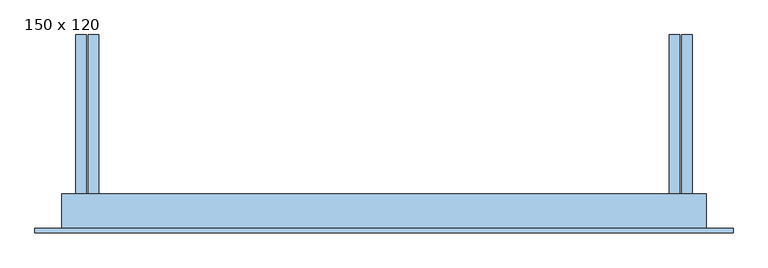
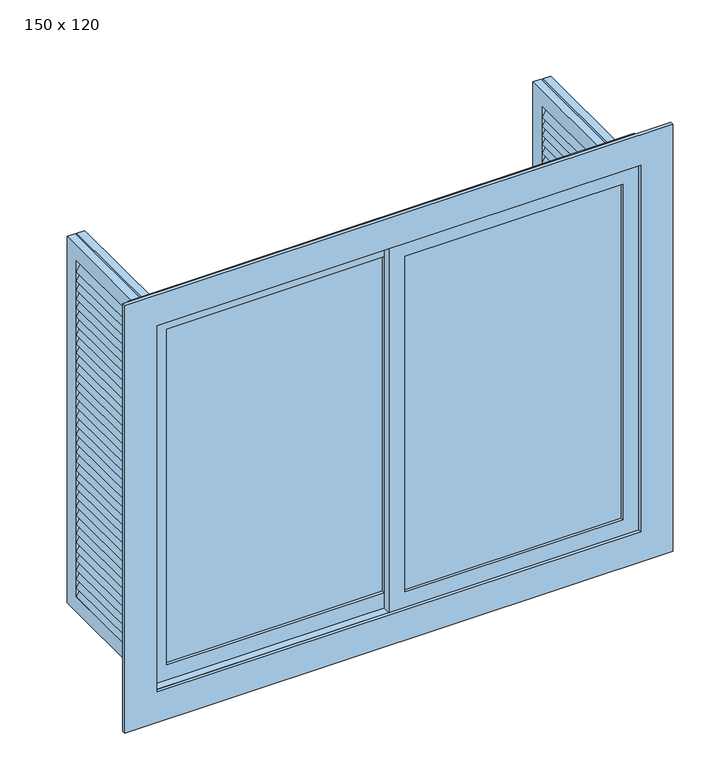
"""IFC4 building model written with IfcOpenShell, lengths in millimetres: window geometry, JANELA COM ESQUADRIA DE CORRER - 2 FOLHAS + VENEZIANA SANFONADA - 4 FOLHAS : 150 x 120."""

from ifc_helpers import new_model, si_unit, frame, origin, place, context, project, spatial, polyline, outline, extrude, source, transform, mapped, element, save


def window_150_x_120_a11b06af(model_context):
    return source(origin(), model_context, "Body", "SweptSolid", [
        extrude(outline(polyline([(2085.4166667, 817.0241297), (2120.4166667, 837.0241297), (2120.4166667, 832.0241297), (2085.4166667, 812.0241297), (2085.4166667, 817.0241297)])), frame((0.0, 72.1733038, 0.0), z_axis=(0.0, 1.0, 0.0), x_axis=(0.0, 0.0, 1.0)), (0.0, 0.0, 1.0), 287.5),
        extrude(outline(polyline([(2055.8333333, 817.0241297), (2090.8333333, 837.0241297), (2090.8333333, 832.0241297), (2055.8333333, 812.0241297), (2055.8333333, 817.0241297)])), frame((0.0, 72.1733038, 0.0), z_axis=(0.0, 1.0, 0.0), x_axis=(0.0, 0.0, 1.0)), (0.0, 0.0, 1.0), 287.5),
        extrude(outline(polyline([(2026.25, 817.0241297), (2061.25, 837.0241297), (2061.25, 832.0241297), (2026.25, 812.0241297), (2026.25, 817.0241297)])), frame((0.0, 72.1733038, 0.0), z_axis=(0.0, 1.0, 0.0), x_axis=(0.0, 0.0, 1.0)), (0.0, 0.0, 1.0), 287.5),
        extrude(outline(polyline([(1996.6666667, 817.0241297), (2031.6666667, 837.0241297), (2031.6666667, 832.0241297), (1996.6666667, 812.0241297), (1996.6666667, 817.0241297)])), frame((0.0, 72.1733038, 0.0), z_axis=(0.0, 1.0, 0.0), x_axis=(0.0, 0.0, 1.0)), (0.0, 0.0, 1.0), 287.5),
        extrude(outline(polyline([(1967.0833333, 817.0241297), (2002.0833333, 837.0241297), (2002.0833333, 832.0241297), (1967.0833333, 812.0241297), (1967.0833333, 817.0241297)])), frame((0.0, 72.1733038, 0.0), z_axis=(0.0, 1.0, 0.0), x_axis=(0.0, 0.0, 1.0)), (0.0, 0.0, 1.0), 287.5),
        extrude(outline(polyline([(1937.5, 817.0241297), (1972.5, 837.0241297), (1972.5, 832.0241297), (1937.5, 812.0241297), (1937.5, 817.0241297)])), frame((0.0, 72.1733038, 0.0), z_axis=(0.0, 1.0, 0.0), x_axis=(0.0, 0.0, 1.0)), (0.0, 0.0, 1.0), 287.5),
        extrude(outline(polyline([(1907.9166667, 817.0241297), (1942.9166667, 837.0241297), (1942.9166667, 832.0241297), (1907.9166667, 812.0241297), (1907.9166667, 817.0241297)])), frame((0.0, 72.1733038, 0.0), z_axis=(0.0, 1.0, 0.0), x_axis=(0.0, 0.0, 1.0)), (0.0, 0.0, 1.0), 287.5),
        extrude(outline(polyline([(1878.3333333, 817.0241297), (1913.3333333, 837.0241297), (1913.3333333, 832.0241297), (1878.3333333, 812.0241297), (1878.3333333, 817.0241297)])), frame((0.0, 72.1733038, 0.0), z_axis=(0.0, 1.0, 0.0), x_axis=(0.0, 0.0, 1.0)), (0.0, 0.0, 1.0), 287.5),
        extrude(outline(polyline([(1848.75, 817.0241297), (1883.75, 837.0241297), (1883.75, 832.0241297), (1848.75, 812.0241297), (1848.75, 817.0241297)])), frame((0.0, 72.1733038, 0.0), z_axis=(0.0, 1.0, 0.0), x_axis=(0.0, 0.0, 1.0)), (0.0, 0.0, 1.0), 287.5),
        extrude(outline(polyline([(1819.1666667, 817.0241297), (1854.1666667, 837.0241297), (1854.1666667, 832.0241297), (1819.1666667, 812.0241297), (1819.1666667, 817.0241297)])), frame((0.0, 72.1733038, 0.0), z_axis=(0.0, 1.0, 0.0), x_axis=(0.0, 0.0, 1.0)), (0.0, 0.0, 1.0), 287.5),
        extrude(outline(polyline([(1789.5833333, 817.0241297), (1824.5833333, 837.0241297), (1824.5833333, 832.0241297), (1789.5833333, 812.0241297), (1789.5833333, 817.0241297)])), frame((0.0, 72.1733038, 0.0), z_axis=(0.0, 1.0, 0.0), x_axis=(0.0, 0.0, 1.0)), (0.0, 0.0, 1.0), 287.5),
        extrude(outline(polyline([(1760.0, 817.0241297), (1795.0, 837.0241297), (1795.0, 832.0241297), (1760.0, 812.0241297), (1760.0, 817.0241297)])), frame((0.0, 72.1733038, 0.0), z_axis=(0.0, 1.0, 0.0), x_axis=(0.0, 0.0, 1.0)), (0.0, 0.0, 1.0), 287.5),
        extrude(outline(polyline([(1730.4166667, 817.0241297), (1765.4166667, 837.0241297), (1765.4166667, 832.0241297), (1730.4166667, 812.0241297), (1730.4166667, 817.0241297)])), frame((0.0, 72.1733038, 0.0), z_axis=(0.0, 1.0, 0.0), x_axis=(0.0, 0.0, 1.0)), (0.0, 0.0, 1.0), 287.5),
        extrude(outline(polyline([(1700.8333333, 817.0241297), (1735.8333333, 837.0241297), (1735.8333333, 832.0241297), (1700.8333333, 812.0241297), (1700.8333333, 817.0241297)])), frame((0.0, 72.1733038, 0.0), z_axis=(0.0, 1.0, 0.0), x_axis=(0.0, 0.0, 1.0)), (0.0, 0.0, 1.0), 287.5),
        extrude(outline(polyline([(2085.4166667, 862.0241297), (2085.4166667, 867.0241297), (2120.4166667, 847.0241297), (2120.4166667, 842.0241297), (2085.4166667, 862.0241297)])), frame((0.0, 72.1733038, 0.0), z_axis=(0.0, 1.0, 0.0), x_axis=(0.0, 0.0, 1.0)), (0.0, 0.0, 1.0), 287.5),
        extrude(outline(polyline([(2055.8333333, 862.0241297), (2055.8333333, 867.0241297), (2090.8333333, 847.0241297), (2090.8333333, 842.0241297), (2055.8333333, 862.0241297)])), frame((0.0, 72.1733038, 0.0), z_axis=(0.0, 1.0, 0.0), x_axis=(0.0, 0.0, 1.0)), (0.0, 0.0, 1.0), 287.5),
        extrude(outline(polyline([(2026.25, 862.0241297), (2026.25, 867.0241297), (2061.25, 847.0241297), (2061.25, 842.0241297), (2026.25, 862.0241297)])), frame((0.0, 72.1733038, 0.0), z_axis=(0.0, 1.0, 0.0), x_axis=(0.0, 0.0, 1.0)), (0.0, 0.0, 1.0), 287.5),
        extrude(outline(polyline([(1996.6666667, 862.0241297), (1996.6666667, 867.0241297), (2031.6666667, 847.0241297), (2031.6666667, 842.0241297), (1996.6666667, 862.0241297)])), frame((0.0, 72.1733038, 0.0), z_axis=(0.0, 1.0, 0.0), x_axis=(0.0, 0.0, 1.0)), (0.0, 0.0, 1.0), 287.5),
        extrude(outline(polyline([(1967.0833333, 862.0241297), (1967.0833333, 867.0241297), (2002.0833333, 847.0241297), (2002.0833333, 842.0241297), (1967.0833333, 862.0241297)])), frame((0.0, 72.1733038, 0.0), z_axis=(0.0, 1.0, 0.0), x_axis=(0.0, 0.0, 1.0)), (0.0, 0.0, 1.0), 287.5),
        extrude(outline(polyline([(1937.5, 862.0241297), (1937.5, 867.0241297), (1972.5, 847.0241297), (1972.5, 842.0241297), (1937.5, 862.0241297)])), frame((0.0, 72.1733038, 0.0), z_axis=(0.0, 1.0, 0.0), x_axis=(0.0, 0.0, 1.0)), (0.0, 0.0, 1.0), 287.5),
        extrude(outline(polyline([(1907.9166667, 862.0241297), (1907.9166667, 867.0241297), (1942.9166667, 847.0241297), (1942.9166667, 842.0241297), (1907.9166667, 862.0241297)])), frame((0.0, 72.1733038, 0.0), z_axis=(0.0, 1.0, 0.0), x_axis=(0.0, 0.0, 1.0)), (0.0, 0.0, 1.0), 287.5),
        extrude(outline(polyline([(1878.3333333, 862.0241297), (1878.3333333, 867.0241297), (1913.3333333, 847.0241297), (1913.3333333, 842.0241297), (1878.3333333, 862.0241297)])), frame((0.0, 72.1733038, 0.0), z_axis=(0.0, 1.0, 0.0), x_axis=(0.0, 0.0, 1.0)), (0.0, 0.0, 1.0), 287.5),
        extrude(outline(polyline([(1848.75, 862.0241297), (1848.75, 867.0241297), (1883.75, 847.0241297), (1883.75, 842.0241297), (1848.75, 862.0241297)])), frame((0.0, 72.1733038, 0.0), z_axis=(0.0, 1.0, 0.0), x_axis=(0.0, 0.0, 1.0)), (0.0, 0.0, 1.0), 287.5),
        extrude(outline(polyline([(1819.1666667, 862.0241297), (1819.1666667, 867.0241297), (1854.1666667, 847.0241297), (1854.1666667, 842.0241297), (1819.1666667, 862.0241297)])), frame((0.0, 72.1733038, 0.0), z_axis=(0.0, 1.0, 0.0), x_axis=(0.0, 0.0, 1.0)), (0.0, 0.0, 1.0), 287.5),
        extrude(outline(polyline([(1789.5833333, 862.0241297), (1789.5833333, 867.0241297), (1824.5833333, 847.0241297), (1824.5833333, 842.0241297), (1789.5833333, 862.0241297)])), frame((0.0, 72.1733038, 0.0), z_axis=(0.0, 1.0, 0.0), x_axis=(0.0, 0.0, 1.0)), (0.0, 0.0, 1.0), 287.5),
        extrude(outline(polyline([(1760.0, 862.0241297), (1760.0, 867.0241297), (1795.0, 847.0241297), (1795.0, 842.0241297), (1760.0, 862.0241297)])), frame((0.0, 72.1733038, 0.0), z_axis=(0.0, 1.0, 0.0), x_axis=(0.0, 0.0, 1.0)), (0.0, 0.0, 1.0), 287.5),
        extrude(outline(polyline([(1730.4166667, 862.0241297), (1730.4166667, 867.0241297), (1765.4166667, 847.0241297), (1765.4166667, 842.0241297), (1730.4166667, 862.0241297)])), frame((0.0, 72.1733038, 0.0), z_axis=(0.0, 1.0, 0.0), x_axis=(0.0, 0.0, 1.0)), (0.0, 0.0, 1.0), 287.5),
        extrude(outline(polyline([(1700.8333333, 862.0241297), (1700.8333333, 867.0241297), (1735.8333333, 847.0241297), (1735.8333333, 842.0241297), (1700.8333333, 862.0241297)])), frame((0.0, 72.1733038, 0.0), z_axis=(0.0, 1.0, 0.0), x_axis=(0.0, 0.0, 1.0)), (0.0, 0.0, 1.0), 287.5),
        extrude(outline(polyline([(1671.25, 817.0241297), (1706.25, 837.0241297), (1706.25, 832.0241297), (1671.25, 812.0241297), (1671.25, 817.0241297)])), frame((0.0, 72.1733038, 0.0), z_axis=(0.0, 1.0, 0.0), x_axis=(0.0, 0.0, 1.0)), (0.0, 0.0, 1.0), 287.5),
        extrude(outline(polyline([(1641.6666667, 817.0241297), (1676.6666667, 837.0241297), (1676.6666667, 832.0241297), (1641.6666667, 812.0241297), (1641.6666667, 817.0241297)])), frame((0.0, 72.1733038, 0.0), z_axis=(0.0, 1.0, 0.0), x_axis=(0.0, 0.0, 1.0)), (0.0, 0.0, 1.0), 287.5),
        extrude(outline(polyline([(1612.0833333, 817.0241297), (1647.0833333, 837.0241297), (1647.0833333, 832.0241297), (1612.0833333, 812.0241297), (1612.0833333, 817.0241297)])), frame((0.0, 72.1733038, 0.0), z_axis=(0.0, 1.0, 0.0), x_axis=(0.0, 0.0, 1.0)), (0.0, 0.0, 1.0), 287.5),
        extrude(outline(polyline([(1582.5, 817.0241297), (1617.5, 837.0241297), (1617.5, 832.0241297), (1582.5, 812.0241297), (1582.5, 817.0241297)])), frame((0.0, 72.1733038, 0.0), z_axis=(0.0, 1.0, 0.0), x_axis=(0.0, 0.0, 1.0)), (0.0, 0.0, 1.0), 287.5),
        extrude(outline(polyline([(1552.9166667, 817.0241297), (1587.9166667, 837.0241297), (1587.9166667, 832.0241297), (1552.9166667, 812.0241297), (1552.9166667, 817.0241297)])), frame((0.0, 72.1733038, 0.0), z_axis=(0.0, 1.0, 0.0), x_axis=(0.0, 0.0, 1.0)), (0.0, 0.0, 1.0), 287.5),
        extrude(outline(polyline([(1523.3333333, 817.0241297), (1558.3333333, 837.0241297), (1558.3333333, 832.0241297), (1523.3333333, 812.0241297), (1523.3333333, 817.0241297)])), frame((0.0, 72.1733038, 0.0), z_axis=(0.0, 1.0, 0.0), x_axis=(0.0, 0.0, 1.0)), (0.0, 0.0, 1.0), 287.5),
        extrude(outline(polyline([(1493.75, 817.0241297), (1528.75, 837.0241297), (1528.75, 832.0241297), (1493.75, 812.0241297), (1493.75, 817.0241297)])), frame((0.0, 72.1733038, 0.0), z_axis=(0.0, 1.0, 0.0), x_axis=(0.0, 0.0, 1.0)), (0.0, 0.0, 1.0), 287.5),
        extrude(outline(polyline([(1464.1666667, 817.0241297), (1499.1666667, 837.0241297), (1499.1666667, 832.0241297), (1464.1666667, 812.0241297), (1464.1666667, 817.0241297)])), frame((0.0, 72.1733038, 0.0), z_axis=(0.0, 1.0, 0.0), x_axis=(0.0, 0.0, 1.0)), (0.0, 0.0, 1.0), 287.5),
        extrude(outline(polyline([(1434.5833333, 817.0241297), (1469.5833333, 837.0241297), (1469.5833333, 832.0241297), (1434.5833333, 812.0241297), (1434.5833333, 817.0241297)])), frame((0.0, 72.1733038, 0.0), z_axis=(0.0, 1.0, 0.0), x_axis=(0.0, 0.0, 1.0)), (0.0, 0.0, 1.0), 287.5),
        extrude(outline(polyline([(1405.0, 817.0241297), (1440.0, 837.0241297), (1440.0, 832.0241297), (1405.0, 812.0241297), (1405.0, 817.0241297)])), frame((0.0, 72.1733038, 0.0), z_axis=(0.0, 1.0, 0.0), x_axis=(0.0, 0.0, 1.0)), (0.0, 0.0, 1.0), 287.5),
        extrude(outline(polyline([(1375.4166667, 817.0241297), (1410.4166667, 837.0241297), (1410.4166667, 832.0241297), (1375.4166667, 812.0241297), (1375.4166667, 817.0241297)])), frame((0.0, 72.1733038, 0.0), z_axis=(0.0, 1.0, 0.0), x_axis=(0.0, 0.0, 1.0)), (0.0, 0.0, 1.0), 287.5),
        extrude(outline(polyline([(1345.8333333, 817.0241297), (1380.8333333, 837.0241297), (1380.8333333, 832.0241297), (1345.8333333, 812.0241297), (1345.8333333, 817.0241297)])), frame((0.0, 72.1733038, 0.0), z_axis=(0.0, 1.0, 0.0), x_axis=(0.0, 0.0, 1.0)), (0.0, 0.0, 1.0), 287.5),
        extrude(outline(polyline([(1316.25, 817.0241297), (1351.25, 837.0241297), (1351.25, 832.0241297), (1316.25, 812.0241297), (1316.25, 817.0241297)])), frame((0.0, 72.1733038, 0.0), z_axis=(0.0, 1.0, 0.0), x_axis=(0.0, 0.0, 1.0)), (0.0, 0.0, 1.0), 287.5),
        extrude(outline(polyline([(1286.6666667, 817.0241297), (1321.6666667, 837.0241297), (1321.6666667, 832.0241297), (1286.6666667, 812.0241297), (1286.6666667, 817.0241297)])), frame((0.0, 72.1733038, 0.0), z_axis=(0.0, 1.0, 0.0), x_axis=(0.0, 0.0, 1.0)), (0.0, 0.0, 1.0), 287.5),
        extrude(outline(polyline([(1257.0833333, 817.0241297), (1292.0833333, 837.0241297), (1292.0833333, 832.0241297), (1257.0833333, 812.0241297), (1257.0833333, 817.0241297)])), frame((0.0, 72.1733038, 0.0), z_axis=(0.0, 1.0, 0.0), x_axis=(0.0, 0.0, 1.0)), (0.0, 0.0, 1.0), 287.5),
        extrude(outline(polyline([(1227.5, 817.0241297), (1262.5, 837.0241297), (1262.5, 832.0241297), (1227.5, 812.0241297), (1227.5, 817.0241297)])), frame((0.0, 72.1733038, 0.0), z_axis=(0.0, 1.0, 0.0), x_axis=(0.0, 0.0, 1.0)), (0.0, 0.0, 1.0), 287.5),
        extrude(outline(polyline([(1197.9166667, 817.0241297), (1232.9166667, 837.0241297), (1232.9166667, 832.0241297), (1197.9166667, 812.0241297), (1197.9166667, 817.0241297)])), frame((0.0, 72.1733038, 0.0), z_axis=(0.0, 1.0, 0.0), x_axis=(0.0, 0.0, 1.0)), (0.0, 0.0, 1.0), 287.5),
        extrude(outline(polyline([(1168.3333333, 817.0241297), (1203.3333333, 837.0241297), (1203.3333333, 832.0241297), (1168.3333333, 812.0241297), (1168.3333333, 817.0241297)])), frame((0.0, 72.1733038, 0.0), z_axis=(0.0, 1.0, 0.0), x_axis=(0.0, 0.0, 1.0)), (0.0, 0.0, 1.0), 287.5),
        extrude(outline(polyline([(1138.75, 817.0241297), (1173.75, 837.0241297), (1173.75, 832.0241297), (1138.75, 812.0241297), (1138.75, 817.0241297)])), frame((0.0, 72.1733038, 0.0), z_axis=(0.0, 1.0, 0.0), x_axis=(0.0, 0.0, 1.0)), (0.0, 0.0, 1.0), 287.5),
        extrude(outline(polyline([(1109.1666667, 817.0241297), (1144.1666667, 837.0241297), (1144.1666667, 832.0241297), (1109.1666667, 812.0241297), (1109.1666667, 817.0241297)])), frame((0.0, 72.1733038, 0.0), z_axis=(0.0, 1.0, 0.0), x_axis=(0.0, 0.0, 1.0)), (0.0, 0.0, 1.0), 287.5),
        extrude(outline(polyline([(1079.5833333, 817.0241297), (1114.5833333, 837.0241297), (1114.5833333, 832.0241297), (1079.5833333, 812.0241297), (1079.5833333, 817.0241297)])), frame((0.0, 72.1733038, 0.0), z_axis=(0.0, 1.0, 0.0), x_axis=(0.0, 0.0, 1.0)), (0.0, 0.0, 1.0), 287.5),
        extrude(outline(polyline([(2115.0, 817.0241297), (2150.0, 837.0241297), (2150.0, 832.0241297), (2115.0, 812.0241297), (2115.0, 817.0241297)])), frame((0.0, 72.1733038, 0.0), z_axis=(0.0, 1.0, 0.0), x_axis=(0.0, 0.0, 1.0)), (0.0, 0.0, 1.0), 287.5),
        extrude(outline(polyline([(1050.0, 817.0241297), (1085.0, 837.0241297), (1085.0, 832.0241297), (1050.0, 812.0241297), (1050.0, 817.0241297)])), frame((0.0, 72.1733038, 0.0), z_axis=(0.0, 1.0, 0.0), x_axis=(0.0, 0.0, 1.0)), (0.0, 0.0, 1.0), 287.5),
        extrude(outline(polyline([(1671.25, 862.0241297), (1671.25, 867.0241297), (1706.25, 847.0241297), (1706.25, 842.0241297), (1671.25, 862.0241297)])), frame((0.0, 72.1733038, 0.0), z_axis=(0.0, 1.0, 0.0), x_axis=(0.0, 0.0, 1.0)), (0.0, 0.0, 1.0), 287.5),
        extrude(outline(polyline([(1641.6666667, 862.0241297), (1641.6666667, 867.0241297), (1676.6666667, 847.0241297), (1676.6666667, 842.0241297), (1641.6666667, 862.0241297)])), frame((0.0, 72.1733038, 0.0), z_axis=(0.0, 1.0, 0.0), x_axis=(0.0, 0.0, 1.0)), (0.0, 0.0, 1.0), 287.5),
        extrude(outline(polyline([(1612.0833333, 862.0241297), (1612.0833333, 867.0241297), (1647.0833333, 847.0241297), (1647.0833333, 842.0241297), (1612.0833333, 862.0241297)])), frame((0.0, 72.1733038, 0.0), z_axis=(0.0, 1.0, 0.0), x_axis=(0.0, 0.0, 1.0)), (0.0, 0.0, 1.0), 287.5),
        extrude(outline(polyline([(1582.5, 862.0241297), (1582.5, 867.0241297), (1617.5, 847.0241297), (1617.5, 842.0241297), (1582.5, 862.0241297)])), frame((0.0, 72.1733038, 0.0), z_axis=(0.0, 1.0, 0.0), x_axis=(0.0, 0.0, 1.0)), (0.0, 0.0, 1.0), 287.5),
        extrude(outline(polyline([(1552.9166667, 862.0241297), (1552.9166667, 867.0241297), (1587.9166667, 847.0241297), (1587.9166667, 842.0241297), (1552.9166667, 862.0241297)])), frame((0.0, 72.1733038, 0.0), z_axis=(0.0, 1.0, 0.0), x_axis=(0.0, 0.0, 1.0)), (0.0, 0.0, 1.0), 287.5),
        extrude(outline(polyline([(1523.3333333, 862.0241297), (1523.3333333, 867.0241297), (1558.3333333, 847.0241297), (1558.3333333, 842.0241297), (1523.3333333, 862.0241297)])), frame((0.0, 72.1733038, 0.0), z_axis=(0.0, 1.0, 0.0), x_axis=(0.0, 0.0, 1.0)), (0.0, 0.0, 1.0), 287.5),
        extrude(outline(polyline([(1493.75, 862.0241297), (1493.75, 867.0241297), (1528.75, 847.0241297), (1528.75, 842.0241297), (1493.75, 862.0241297)])), frame((0.0, 72.1733038, 0.0), z_axis=(0.0, 1.0, 0.0), x_axis=(0.0, 0.0, 1.0)), (0.0, 0.0, 1.0), 287.5),
        extrude(outline(polyline([(1464.1666667, 862.0241297), (1464.1666667, 867.0241297), (1499.1666667, 847.0241297), (1499.1666667, 842.0241297), (1464.1666667, 862.0241297)])), frame((0.0, 72.1733038, 0.0), z_axis=(0.0, 1.0, 0.0), x_axis=(0.0, 0.0, 1.0)), (0.0, 0.0, 1.0), 287.5),
        extrude(outline(polyline([(1434.5833333, 862.0241297), (1434.5833333, 867.0241297), (1469.5833333, 847.0241297), (1469.5833333, 842.0241297), (1434.5833333, 862.0241297)])), frame((0.0, 72.1733038, 0.0), z_axis=(0.0, 1.0, 0.0), x_axis=(0.0, 0.0, 1.0)), (0.0, 0.0, 1.0), 287.5),
        extrude(outline(polyline([(1405.0, 862.0241297), (1405.0, 867.0241297), (1440.0, 847.0241297), (1440.0, 842.0241297), (1405.0, 862.0241297)])), frame((0.0, 72.1733038, 0.0), z_axis=(0.0, 1.0, 0.0), x_axis=(0.0, 0.0, 1.0)), (0.0, 0.0, 1.0), 287.5),
        extrude(outline(polyline([(1375.4166667, 862.0241297), (1375.4166667, 867.0241297), (1410.4166667, 847.0241297), (1410.4166667, 842.0241297), (1375.4166667, 862.0241297)])), frame((0.0, 72.1733038, 0.0), z_axis=(0.0, 1.0, 0.0), x_axis=(0.0, 0.0, 1.0)), (0.0, 0.0, 1.0), 287.5),
        extrude(outline(polyline([(1345.8333333, 862.0241297), (1345.8333333, 867.0241297), (1380.8333333, 847.0241297), (1380.8333333, 842.0241297), (1345.8333333, 862.0241297)])), frame((0.0, 72.1733038, 0.0), z_axis=(0.0, 1.0, 0.0), x_axis=(0.0, 0.0, 1.0)), (0.0, 0.0, 1.0), 287.5),
        extrude(outline(polyline([(1316.25, 862.0241297), (1316.25, 867.0241297), (1351.25, 847.0241297), (1351.25, 842.0241297), (1316.25, 862.0241297)])), frame((0.0, 72.1733038, 0.0), z_axis=(0.0, 1.0, 0.0), x_axis=(0.0, 0.0, 1.0)), (0.0, 0.0, 1.0), 287.5),
        extrude(outline(polyline([(1286.6666667, 862.0241297), (1286.6666667, 867.0241297), (1321.6666667, 847.0241297), (1321.6666667, 842.0241297), (1286.6666667, 862.0241297)])), frame((0.0, 72.1733038, 0.0), z_axis=(0.0, 1.0, 0.0), x_axis=(0.0, 0.0, 1.0)), (0.0, 0.0, 1.0), 287.5),
        extrude(outline(polyline([(1257.0833333, 862.0241297), (1257.0833333, 867.0241297), (1292.0833333, 847.0241297), (1292.0833333, 842.0241297), (1257.0833333, 862.0241297)])), frame((0.0, 72.1733038, 0.0), z_axis=(0.0, 1.0, 0.0), x_axis=(0.0, 0.0, 1.0)), (0.0, 0.0, 1.0), 287.5),
        extrude(outline(polyline([(1227.5, 862.0241297), (1227.5, 867.0241297), (1262.5, 847.0241297), (1262.5, 842.0241297), (1227.5, 862.0241297)])), frame((0.0, 72.1733038, 0.0), z_axis=(0.0, 1.0, 0.0), x_axis=(0.0, 0.0, 1.0)), (0.0, 0.0, 1.0), 287.5),
        extrude(outline(polyline([(1197.9166667, 862.0241297), (1197.9166667, 867.0241297), (1232.9166667, 847.0241297), (1232.9166667, 842.0241297), (1197.9166667, 862.0241297)])), frame((0.0, 72.1733038, 0.0), z_axis=(0.0, 1.0, 0.0), x_axis=(0.0, 0.0, 1.0)), (0.0, 0.0, 1.0), 287.5),
        extrude(outline(polyline([(1168.3333333, 862.0241297), (1168.3333333, 867.0241297), (1203.3333333, 847.0241297), (1203.3333333, 842.0241297), (1168.3333333, 862.0241297)])), frame((0.0, 72.1733038, 0.0), z_axis=(0.0, 1.0, 0.0), x_axis=(0.0, 0.0, 1.0)), (0.0, 0.0, 1.0), 287.5),
        extrude(outline(polyline([(1138.75, 862.0241297), (1138.75, 867.0241297), (1173.75, 847.0241297), (1173.75, 842.0241297), (1138.75, 862.0241297)])), frame((0.0, 72.1733038, 0.0), z_axis=(0.0, 1.0, 0.0), x_axis=(0.0, 0.0, 1.0)), (0.0, 0.0, 1.0), 287.5),
        extrude(outline(polyline([(1109.1666667, 862.0241297), (1109.1666667, 867.0241297), (1144.1666667, 847.0241297), (1144.1666667, 842.0241297), (1109.1666667, 862.0241297)])), frame((0.0, 72.1733038, 0.0), z_axis=(0.0, 1.0, 0.0), x_axis=(0.0, 0.0, 1.0)), (0.0, 0.0, 1.0), 287.5),
        extrude(outline(polyline([(1079.5833333, 862.0241297), (1079.5833333, 867.0241297), (1114.5833333, 847.0241297), (1114.5833333, 842.0241297), (1079.5833333, 862.0241297)])), frame((0.0, 72.1733038, 0.0), z_axis=(0.0, 1.0, 0.0), x_axis=(0.0, 0.0, 1.0)), (0.0, 0.0, 1.0), 287.5),
        extrude(outline(polyline([(2115.0, 862.0241297), (2115.0, 867.0241297), (2150.0, 847.0241297), (2150.0, 842.0241297), (2115.0, 862.0241297)])), frame((0.0, 72.1733038, 0.0), z_axis=(0.0, 1.0, 0.0), x_axis=(0.0, 0.0, 1.0)), (0.0, 0.0, 1.0), 287.5),
        extrude(outline(polyline([(1050.0, 862.0241297), (1050.0, 867.0241297), (1085.0, 847.0241297), (1085.0, 842.0241297), (1050.0, 862.0241297)])), frame((0.0, 72.1733038, 0.0), z_axis=(0.0, 1.0, 0.0), x_axis=(0.0, 0.0, 1.0)), (0.0, 0.0, 1.0), 287.5),
        extrude(outline(polyline([(409.6733038, 2200.0), (409.6733038, 1000.0), (22.1733038, 1000.0), (22.1733038, 2200.0), (409.6733038, 2200.0)]), holes=[polyline([(359.6733038, 2150.0), (72.1733038, 2150.0), (72.1733038, 1050.0), (359.6733038, 1050.0), (359.6733038, 2150.0)])]), frame((812.0241297, 0.0, 0.0), z_axis=(1.0, 0.0, 0.0), x_axis=(0.0, 1.0, 0.0)), (0.0, 0.0, 1.0), 25.0),
        extrude(outline(polyline([(409.6733038, 2200.0), (409.6733038, 1000.0), (22.1733038, 1000.0), (22.1733038, 2200.0), (409.6733038, 2200.0)]), holes=[polyline([(359.6733038, 2150.0), (72.1733038, 2150.0), (72.1733038, 1050.0), (359.6733038, 1050.0), (359.6733038, 2150.0)])]), frame((842.0241297, 0.0, 0.0), z_axis=(1.0, 0.0, 0.0), x_axis=(0.0, 1.0, 0.0)), (0.0, 0.0, 1.0), 25.0),
        extrude(outline(polyline([(2085.4166667, -582.9758703), (2085.4166667, -577.9758703), (2120.4166667, -597.9758703), (2120.4166667, -602.9758703), (2085.4166667, -582.9758703)])), frame((0.0, 72.1733038, 0.0), z_axis=(0.0, 1.0, 0.0), x_axis=(0.0, 0.0, 1.0)), (0.0, 0.0, 1.0), 287.5),
        extrude(outline(polyline([(2055.8333333, -582.9758703), (2055.8333333, -577.9758703), (2090.8333333, -597.9758703), (2090.8333333, -602.9758703), (2055.8333333, -582.9758703)])), frame((0.0, 72.1733038, 0.0), z_axis=(0.0, 1.0, 0.0), x_axis=(0.0, 0.0, 1.0)), (0.0, 0.0, 1.0), 287.5),
        extrude(outline(polyline([(2026.25, -582.9758703), (2026.25, -577.9758703), (2061.25, -597.9758703), (2061.25, -602.9758703), (2026.25, -582.9758703)])), frame((0.0, 72.1733038, 0.0), z_axis=(0.0, 1.0, 0.0), x_axis=(0.0, 0.0, 1.0)), (0.0, 0.0, 1.0), 287.5),
        extrude(outline(polyline([(1996.6666667, -582.9758703), (1996.6666667, -577.9758703), (2031.6666667, -597.9758703), (2031.6666667, -602.9758703), (1996.6666667, -582.9758703)])), frame((0.0, 72.1733038, 0.0), z_axis=(0.0, 1.0, 0.0), x_axis=(0.0, 0.0, 1.0)), (0.0, 0.0, 1.0), 287.5),
        extrude(outline(polyline([(1967.0833333, -582.9758703), (1967.0833333, -577.9758703), (2002.0833333, -597.9758703), (2002.0833333, -602.9758703), (1967.0833333, -582.9758703)])), frame((0.0, 72.1733038, 0.0), z_axis=(0.0, 1.0, 0.0), x_axis=(0.0, 0.0, 1.0)), (0.0, 0.0, 1.0), 287.5),
        extrude(outline(polyline([(1937.5, -582.9758703), (1937.5, -577.9758703), (1972.5, -597.9758703), (1972.5, -602.9758703), (1937.5, -582.9758703)])), frame((0.0, 72.1733038, 0.0), z_axis=(0.0, 1.0, 0.0), x_axis=(0.0, 0.0, 1.0)), (0.0, 0.0, 1.0), 287.5),
        extrude(outline(polyline([(1907.9166667, -582.9758703), (1907.9166667, -577.9758703), (1942.9166667, -597.9758703), (1942.9166667, -602.9758703), (1907.9166667, -582.9758703)])), frame((0.0, 72.1733038, 0.0), z_axis=(0.0, 1.0, 0.0), x_axis=(0.0, 0.0, 1.0)), (0.0, 0.0, 1.0), 287.5),
        extrude(outline(polyline([(1878.3333333, -582.9758703), (1878.3333333, -577.9758703), (1913.3333333, -597.9758703), (1913.3333333, -602.9758703), (1878.3333333, -582.9758703)])), frame((0.0, 72.1733038, 0.0), z_axis=(0.0, 1.0, 0.0), x_axis=(0.0, 0.0, 1.0)), (0.0, 0.0, 1.0), 287.5),
        extrude(outline(polyline([(1848.75, -582.9758703), (1848.75, -577.9758703), (1883.75, -597.9758703), (1883.75, -602.9758703), (1848.75, -582.9758703)])), frame((0.0, 72.1733038, 0.0), z_axis=(0.0, 1.0, 0.0), x_axis=(0.0, 0.0, 1.0)), (0.0, 0.0, 1.0), 287.5),
        extrude(outline(polyline([(1819.1666667, -582.9758703), (1819.1666667, -577.9758703), (1854.1666667, -597.9758703), (1854.1666667, -602.9758703), (1819.1666667, -582.9758703)])), frame((0.0, 72.1733038, 0.0), z_axis=(0.0, 1.0, 0.0), x_axis=(0.0, 0.0, 1.0)), (0.0, 0.0, 1.0), 287.5),
        extrude(outline(polyline([(1789.5833333, -582.9758703), (1789.5833333, -577.9758703), (1824.5833333, -597.9758703), (1824.5833333, -602.9758703), (1789.5833333, -582.9758703)])), frame((0.0, 72.1733038, 0.0), z_axis=(0.0, 1.0, 0.0), x_axis=(0.0, 0.0, 1.0)), (0.0, 0.0, 1.0), 287.5),
        extrude(outline(polyline([(1760.0, -582.9758703), (1760.0, -577.9758703), (1795.0, -597.9758703), (1795.0, -602.9758703), (1760.0, -582.9758703)])), frame((0.0, 72.1733038, 0.0), z_axis=(0.0, 1.0, 0.0), x_axis=(0.0, 0.0, 1.0)), (0.0, 0.0, 1.0), 287.5),
        extrude(outline(polyline([(1730.4166667, -582.9758703), (1730.4166667, -577.9758703), (1765.4166667, -597.9758703), (1765.4166667, -602.9758703), (1730.4166667, -582.9758703)])), frame((0.0, 72.1733038, 0.0), z_axis=(0.0, 1.0, 0.0), x_axis=(0.0, 0.0, 1.0)), (0.0, 0.0, 1.0), 287.5),
        extrude(outline(polyline([(1700.8333333, -582.9758703), (1700.8333333, -577.9758703), (1735.8333333, -597.9758703), (1735.8333333, -602.9758703), (1700.8333333, -582.9758703)])), frame((0.0, 72.1733038, 0.0), z_axis=(0.0, 1.0, 0.0), x_axis=(0.0, 0.0, 1.0)), (0.0, 0.0, 1.0), 287.5),
        extrude(outline(polyline([(2085.4166667, -627.9758703), (2120.4166667, -607.9758703), (2120.4166667, -612.9758703), (2085.4166667, -632.9758703), (2085.4166667, -627.9758703)])), frame((0.0, 72.1733038, 0.0), z_axis=(0.0, 1.0, 0.0), x_axis=(0.0, 0.0, 1.0)), (0.0, 0.0, 1.0), 287.5),
        extrude(outline(polyline([(2055.8333333, -627.9758703), (2090.8333333, -607.9758703), (2090.8333333, -612.9758703), (2055.8333333, -632.9758703), (2055.8333333, -627.9758703)])), frame((0.0, 72.1733038, 0.0), z_axis=(0.0, 1.0, 0.0), x_axis=(0.0, 0.0, 1.0)), (0.0, 0.0, 1.0), 287.5),
        extrude(outline(polyline([(2026.25, -627.9758703), (2061.25, -607.9758703), (2061.25, -612.9758703), (2026.25, -632.9758703), (2026.25, -627.9758703)])), frame((0.0, 72.1733038, 0.0), z_axis=(0.0, 1.0, 0.0), x_axis=(0.0, 0.0, 1.0)), (0.0, 0.0, 1.0), 287.5),
        extrude(outline(polyline([(1996.6666667, -627.9758703), (2031.6666667, -607.9758703), (2031.6666667, -612.9758703), (1996.6666667, -632.9758703), (1996.6666667, -627.9758703)])), frame((0.0, 72.1733038, 0.0), z_axis=(0.0, 1.0, 0.0), x_axis=(0.0, 0.0, 1.0)), (0.0, 0.0, 1.0), 287.5),
        extrude(outline(polyline([(1967.0833333, -627.9758703), (2002.0833333, -607.9758703), (2002.0833333, -612.9758703), (1967.0833333, -632.9758703), (1967.0833333, -627.9758703)])), frame((0.0, 72.1733038, 0.0), z_axis=(0.0, 1.0, 0.0), x_axis=(0.0, 0.0, 1.0)), (0.0, 0.0, 1.0), 287.5),
        extrude(outline(polyline([(1937.5, -627.9758703), (1972.5, -607.9758703), (1972.5, -612.9758703), (1937.5, -632.9758703), (1937.5, -627.9758703)])), frame((0.0, 72.1733038, 0.0), z_axis=(0.0, 1.0, 0.0), x_axis=(0.0, 0.0, 1.0)), (0.0, 0.0, 1.0), 287.5),
        extrude(outline(polyline([(1907.9166667, -627.9758703), (1942.9166667, -607.9758703), (1942.9166667, -612.9758703), (1907.9166667, -632.9758703), (1907.9166667, -627.9758703)])), frame((0.0, 72.1733038, 0.0), z_axis=(0.0, 1.0, 0.0), x_axis=(0.0, 0.0, 1.0)), (0.0, 0.0, 1.0), 287.5),
        extrude(outline(polyline([(1878.3333333, -627.9758703), (1913.3333333, -607.9758703), (1913.3333333, -612.9758703), (1878.3333333, -632.9758703), (1878.3333333, -627.9758703)])), frame((0.0, 72.1733038, 0.0), z_axis=(0.0, 1.0, 0.0), x_axis=(0.0, 0.0, 1.0)), (0.0, 0.0, 1.0), 287.5),
        extrude(outline(polyline([(1848.75, -627.9758703), (1883.75, -607.9758703), (1883.75, -612.9758703), (1848.75, -632.9758703), (1848.75, -627.9758703)])), frame((0.0, 72.1733038, 0.0), z_axis=(0.0, 1.0, 0.0), x_axis=(0.0, 0.0, 1.0)), (0.0, 0.0, 1.0), 287.5),
        extrude(outline(polyline([(1819.1666667, -627.9758703), (1854.1666667, -607.9758703), (1854.1666667, -612.9758703), (1819.1666667, -632.9758703), (1819.1666667, -627.9758703)])), frame((0.0, 72.1733038, 0.0), z_axis=(0.0, 1.0, 0.0), x_axis=(0.0, 0.0, 1.0)), (0.0, 0.0, 1.0), 287.5),
        extrude(outline(polyline([(1789.5833333, -627.9758703), (1824.5833333, -607.9758703), (1824.5833333, -612.9758703), (1789.5833333, -632.9758703), (1789.5833333, -627.9758703)])), frame((0.0, 72.1733038, 0.0), z_axis=(0.0, 1.0, 0.0), x_axis=(0.0, 0.0, 1.0)), (0.0, 0.0, 1.0), 287.5),
        extrude(outline(polyline([(1760.0, -627.9758703), (1795.0, -607.9758703), (1795.0, -612.9758703), (1760.0, -632.9758703), (1760.0, -627.9758703)])), frame((0.0, 72.1733038, 0.0), z_axis=(0.0, 1.0, 0.0), x_axis=(0.0, 0.0, 1.0)), (0.0, 0.0, 1.0), 287.5),
        extrude(outline(polyline([(1730.4166667, -627.9758703), (1765.4166667, -607.9758703), (1765.4166667, -612.9758703), (1730.4166667, -632.9758703), (1730.4166667, -627.9758703)])), frame((0.0, 72.1733038, 0.0), z_axis=(0.0, 1.0, 0.0), x_axis=(0.0, 0.0, 1.0)), (0.0, 0.0, 1.0), 287.5),
        extrude(outline(polyline([(1700.8333333, -627.9758703), (1735.8333333, -607.9758703), (1735.8333333, -612.9758703), (1700.8333333, -632.9758703), (1700.8333333, -627.9758703)])), frame((0.0, 72.1733038, 0.0), z_axis=(0.0, 1.0, 0.0), x_axis=(0.0, 0.0, 1.0)), (0.0, 0.0, 1.0), 287.5),
        extrude(outline(polyline([(1671.25, -582.9758703), (1671.25, -577.9758703), (1706.25, -597.9758703), (1706.25, -602.9758703), (1671.25, -582.9758703)])), frame((0.0, 72.1733038, 0.0), z_axis=(0.0, 1.0, 0.0), x_axis=(0.0, 0.0, 1.0)), (0.0, 0.0, 1.0), 287.5),
        extrude(outline(polyline([(1641.6666667, -582.9758703), (1641.6666667, -577.9758703), (1676.6666667, -597.9758703), (1676.6666667, -602.9758703), (1641.6666667, -582.9758703)])), frame((0.0, 72.1733038, 0.0), z_axis=(0.0, 1.0, 0.0), x_axis=(0.0, 0.0, 1.0)), (0.0, 0.0, 1.0), 287.5),
        extrude(outline(polyline([(1612.0833333, -582.9758703), (1612.0833333, -577.9758703), (1647.0833333, -597.9758703), (1647.0833333, -602.9758703), (1612.0833333, -582.9758703)])), frame((0.0, 72.1733038, 0.0), z_axis=(0.0, 1.0, 0.0), x_axis=(0.0, 0.0, 1.0)), (0.0, 0.0, 1.0), 287.5),
        extrude(outline(polyline([(1582.5, -582.9758703), (1582.5, -577.9758703), (1617.5, -597.9758703), (1617.5, -602.9758703), (1582.5, -582.9758703)])), frame((0.0, 72.1733038, 0.0), z_axis=(0.0, 1.0, 0.0), x_axis=(0.0, 0.0, 1.0)), (0.0, 0.0, 1.0), 287.5),
        extrude(outline(polyline([(1552.9166667, -582.9758703), (1552.9166667, -577.9758703), (1587.9166667, -597.9758703), (1587.9166667, -602.9758703), (1552.9166667, -582.9758703)])), frame((0.0, 72.1733038, 0.0), z_axis=(0.0, 1.0, 0.0), x_axis=(0.0, 0.0, 1.0)), (0.0, 0.0, 1.0), 287.5),
        extrude(outline(polyline([(1523.3333333, -582.9758703), (1523.3333333, -577.9758703), (1558.3333333, -597.9758703), (1558.3333333, -602.9758703), (1523.3333333, -582.9758703)])), frame((0.0, 72.1733038, 0.0), z_axis=(0.0, 1.0, 0.0), x_axis=(0.0, 0.0, 1.0)), (0.0, 0.0, 1.0), 287.5),
        extrude(outline(polyline([(1493.75, -582.9758703), (1493.75, -577.9758703), (1528.75, -597.9758703), (1528.75, -602.9758703), (1493.75, -582.9758703)])), frame((0.0, 72.1733038, 0.0), z_axis=(0.0, 1.0, 0.0), x_axis=(0.0, 0.0, 1.0)), (0.0, 0.0, 1.0), 287.5),
        extrude(outline(polyline([(1464.1666667, -582.9758703), (1464.1666667, -577.9758703), (1499.1666667, -597.9758703), (1499.1666667, -602.9758703), (1464.1666667, -582.9758703)])), frame((0.0, 72.1733038, 0.0), z_axis=(0.0, 1.0, 0.0), x_axis=(0.0, 0.0, 1.0)), (0.0, 0.0, 1.0), 287.5),
        extrude(outline(polyline([(1434.5833333, -582.9758703), (1434.5833333, -577.9758703), (1469.5833333, -597.9758703), (1469.5833333, -602.9758703), (1434.5833333, -582.9758703)])), frame((0.0, 72.1733038, 0.0), z_axis=(0.0, 1.0, 0.0), x_axis=(0.0, 0.0, 1.0)), (0.0, 0.0, 1.0), 287.5),
        extrude(outline(polyline([(1405.0, -582.9758703), (1405.0, -577.9758703), (1440.0, -597.9758703), (1440.0, -602.9758703), (1405.0, -582.9758703)])), frame((0.0, 72.1733038, 0.0), z_axis=(0.0, 1.0, 0.0), x_axis=(0.0, 0.0, 1.0)), (0.0, 0.0, 1.0), 287.5),
        extrude(outline(polyline([(1375.4166667, -582.9758703), (1375.4166667, -577.9758703), (1410.4166667, -597.9758703), (1410.4166667, -602.9758703), (1375.4166667, -582.9758703)])), frame((0.0, 72.1733038, 0.0), z_axis=(0.0, 1.0, 0.0), x_axis=(0.0, 0.0, 1.0)), (0.0, 0.0, 1.0), 287.5),
        extrude(outline(polyline([(1345.8333333, -582.9758703), (1345.8333333, -577.9758703), (1380.8333333, -597.9758703), (1380.8333333, -602.9758703), (1345.8333333, -582.9758703)])), frame((0.0, 72.1733038, 0.0), z_axis=(0.0, 1.0, 0.0), x_axis=(0.0, 0.0, 1.0)), (0.0, 0.0, 1.0), 287.5),
        extrude(outline(polyline([(1316.25, -582.9758703), (1316.25, -577.9758703), (1351.25, -597.9758703), (1351.25, -602.9758703), (1316.25, -582.9758703)])), frame((0.0, 72.1733038, 0.0), z_axis=(0.0, 1.0, 0.0), x_axis=(0.0, 0.0, 1.0)), (0.0, 0.0, 1.0), 287.5),
        extrude(outline(polyline([(1286.6666667, -582.9758703), (1286.6666667, -577.9758703), (1321.6666667, -597.9758703), (1321.6666667, -602.9758703), (1286.6666667, -582.9758703)])), frame((0.0, 72.1733038, 0.0), z_axis=(0.0, 1.0, 0.0), x_axis=(0.0, 0.0, 1.0)), (0.0, 0.0, 1.0), 287.5),
        extrude(outline(polyline([(1257.0833333, -582.9758703), (1257.0833333, -577.9758703), (1292.0833333, -597.9758703), (1292.0833333, -602.9758703), (1257.0833333, -582.9758703)])), frame((0.0, 72.1733038, 0.0), z_axis=(0.0, 1.0, 0.0), x_axis=(0.0, 0.0, 1.0)), (0.0, 0.0, 1.0), 287.5),
        extrude(outline(polyline([(1227.5, -582.9758703), (1227.5, -577.9758703), (1262.5, -597.9758703), (1262.5, -602.9758703), (1227.5, -582.9758703)])), frame((0.0, 72.1733038, 0.0), z_axis=(0.0, 1.0, 0.0), x_axis=(0.0, 0.0, 1.0)), (0.0, 0.0, 1.0), 287.5),
        extrude(outline(polyline([(1197.9166667, -582.9758703), (1197.9166667, -577.9758703), (1232.9166667, -597.9758703), (1232.9166667, -602.9758703), (1197.9166667, -582.9758703)])), frame((0.0, 72.1733038, 0.0), z_axis=(0.0, 1.0, 0.0), x_axis=(0.0, 0.0, 1.0)), (0.0, 0.0, 1.0), 287.5),
        extrude(outline(polyline([(1168.3333333, -582.9758703), (1168.3333333, -577.9758703), (1203.3333333, -597.9758703), (1203.3333333, -602.9758703), (1168.3333333, -582.9758703)])), frame((0.0, 72.1733038, 0.0), z_axis=(0.0, 1.0, 0.0), x_axis=(0.0, 0.0, 1.0)), (0.0, 0.0, 1.0), 287.5),
        extrude(outline(polyline([(1138.75, -582.9758703), (1138.75, -577.9758703), (1173.75, -597.9758703), (1173.75, -602.9758703), (1138.75, -582.9758703)])), frame((0.0, 72.1733038, 0.0), z_axis=(0.0, 1.0, 0.0), x_axis=(0.0, 0.0, 1.0)), (0.0, 0.0, 1.0), 287.5),
        extrude(outline(polyline([(1109.1666667, -582.9758703), (1109.1666667, -577.9758703), (1144.1666667, -597.9758703), (1144.1666667, -602.9758703), (1109.1666667, -582.9758703)])), frame((0.0, 72.1733038, 0.0), z_axis=(0.0, 1.0, 0.0), x_axis=(0.0, 0.0, 1.0)), (0.0, 0.0, 1.0), 287.5),
        extrude(outline(polyline([(1079.5833333, -582.9758703), (1079.5833333, -577.9758703), (1114.5833333, -597.9758703), (1114.5833333, -602.9758703), (1079.5833333, -582.9758703)])), frame((0.0, 72.1733038, 0.0), z_axis=(0.0, 1.0, 0.0), x_axis=(0.0, 0.0, 1.0)), (0.0, 0.0, 1.0), 287.5),
        extrude(outline(polyline([(2115.0, -582.9758703), (2115.0, -577.9758703), (2150.0, -597.9758703), (2150.0, -602.9758703), (2115.0, -582.9758703)])), frame((0.0, 72.1733038, 0.0), z_axis=(0.0, 1.0, 0.0), x_axis=(0.0, 0.0, 1.0)), (0.0, 0.0, 1.0), 287.5),
        extrude(outline(polyline([(1050.0, -582.9758703), (1050.0, -577.9758703), (1085.0, -597.9758703), (1085.0, -602.9758703), (1050.0, -582.9758703)])), frame((0.0, 72.1733038, 0.0), z_axis=(0.0, 1.0, 0.0), x_axis=(0.0, 0.0, 1.0)), (0.0, 0.0, 1.0), 287.5),
        extrude(outline(polyline([(1671.25, -627.9758703), (1706.25, -607.9758703), (1706.25, -612.9758703), (1671.25, -632.9758703), (1671.25, -627.9758703)])), frame((0.0, 72.1733038, 0.0), z_axis=(0.0, 1.0, 0.0), x_axis=(0.0, 0.0, 1.0)), (0.0, 0.0, 1.0), 287.5),
        extrude(outline(polyline([(1641.6666667, -627.9758703), (1676.6666667, -607.9758703), (1676.6666667, -612.9758703), (1641.6666667, -632.9758703), (1641.6666667, -627.9758703)])), frame((0.0, 72.1733038, 0.0), z_axis=(0.0, 1.0, 0.0), x_axis=(0.0, 0.0, 1.0)), (0.0, 0.0, 1.0), 287.5),
        extrude(outline(polyline([(1612.0833333, -627.9758703), (1647.0833333, -607.9758703), (1647.0833333, -612.9758703), (1612.0833333, -632.9758703), (1612.0833333, -627.9758703)])), frame((0.0, 72.1733038, 0.0), z_axis=(0.0, 1.0, 0.0), x_axis=(0.0, 0.0, 1.0)), (0.0, 0.0, 1.0), 287.5),
        extrude(outline(polyline([(1582.5, -627.9758703), (1617.5, -607.9758703), (1617.5, -612.9758703), (1582.5, -632.9758703), (1582.5, -627.9758703)])), frame((0.0, 72.1733038, 0.0), z_axis=(0.0, 1.0, 0.0), x_axis=(0.0, 0.0, 1.0)), (0.0, 0.0, 1.0), 287.5),
        extrude(outline(polyline([(1552.9166667, -627.9758703), (1587.9166667, -607.9758703), (1587.9166667, -612.9758703), (1552.9166667, -632.9758703), (1552.9166667, -627.9758703)])), frame((0.0, 72.1733038, 0.0), z_axis=(0.0, 1.0, 0.0), x_axis=(0.0, 0.0, 1.0)), (0.0, 0.0, 1.0), 287.5),
        extrude(outline(polyline([(1523.3333333, -627.9758703), (1558.3333333, -607.9758703), (1558.3333333, -612.9758703), (1523.3333333, -632.9758703), (1523.3333333, -627.9758703)])), frame((0.0, 72.1733038, 0.0), z_axis=(0.0, 1.0, 0.0), x_axis=(0.0, 0.0, 1.0)), (0.0, 0.0, 1.0), 287.5),
        extrude(outline(polyline([(1493.75, -627.9758703), (1528.75, -607.9758703), (1528.75, -612.9758703), (1493.75, -632.9758703), (1493.75, -627.9758703)])), frame((0.0, 72.1733038, 0.0), z_axis=(0.0, 1.0, 0.0), x_axis=(0.0, 0.0, 1.0)), (0.0, 0.0, 1.0), 287.5),
        extrude(outline(polyline([(1464.1666667, -627.9758703), (1499.1666667, -607.9758703), (1499.1666667, -612.9758703), (1464.1666667, -632.9758703), (1464.1666667, -627.9758703)])), frame((0.0, 72.1733038, 0.0), z_axis=(0.0, 1.0, 0.0), x_axis=(0.0, 0.0, 1.0)), (0.0, 0.0, 1.0), 287.5),
        extrude(outline(polyline([(1434.5833333, -627.9758703), (1469.5833333, -607.9758703), (1469.5833333, -612.9758703), (1434.5833333, -632.9758703), (1434.5833333, -627.9758703)])), frame((0.0, 72.1733038, 0.0), z_axis=(0.0, 1.0, 0.0), x_axis=(0.0, 0.0, 1.0)), (0.0, 0.0, 1.0), 287.5),
        extrude(outline(polyline([(1405.0, -627.9758703), (1440.0, -607.9758703), (1440.0, -612.9758703), (1405.0, -632.9758703), (1405.0, -627.9758703)])), frame((0.0, 72.1733038, 0.0), z_axis=(0.0, 1.0, 0.0), x_axis=(0.0, 0.0, 1.0)), (0.0, 0.0, 1.0), 287.5),
        extrude(outline(polyline([(1375.4166667, -627.9758703), (1410.4166667, -607.9758703), (1410.4166667, -612.9758703), (1375.4166667, -632.9758703), (1375.4166667, -627.9758703)])), frame((0.0, 72.1733038, 0.0), z_axis=(0.0, 1.0, 0.0), x_axis=(0.0, 0.0, 1.0)), (0.0, 0.0, 1.0), 287.5),
        extrude(outline(polyline([(1345.8333333, -627.9758703), (1380.8333333, -607.9758703), (1380.8333333, -612.9758703), (1345.8333333, -632.9758703), (1345.8333333, -627.9758703)])), frame((0.0, 72.1733038, 0.0), z_axis=(0.0, 1.0, 0.0), x_axis=(0.0, 0.0, 1.0)), (0.0, 0.0, 1.0), 287.5),
        extrude(outline(polyline([(1316.25, -627.9758703), (1351.25, -607.9758703), (1351.25, -612.9758703), (1316.25, -632.9758703), (1316.25, -627.9758703)])), frame((0.0, 72.1733038, 0.0), z_axis=(0.0, 1.0, 0.0), x_axis=(0.0, 0.0, 1.0)), (0.0, 0.0, 1.0), 287.5),
        extrude(outline(polyline([(1286.6666667, -627.9758703), (1321.6666667, -607.9758703), (1321.6666667, -612.9758703), (1286.6666667, -632.9758703), (1286.6666667, -627.9758703)])), frame((0.0, 72.1733038, 0.0), z_axis=(0.0, 1.0, 0.0), x_axis=(0.0, 0.0, 1.0)), (0.0, 0.0, 1.0), 287.5),
        extrude(outline(polyline([(1257.0833333, -627.9758703), (1292.0833333, -607.9758703), (1292.0833333, -612.9758703), (1257.0833333, -632.9758703), (1257.0833333, -627.9758703)])), frame((0.0, 72.1733038, 0.0), z_axis=(0.0, 1.0, 0.0), x_axis=(0.0, 0.0, 1.0)), (0.0, 0.0, 1.0), 287.5),
        extrude(outline(polyline([(1227.5, -627.9758703), (1262.5, -607.9758703), (1262.5, -612.9758703), (1227.5, -632.9758703), (1227.5, -627.9758703)])), frame((0.0, 72.1733038, 0.0), z_axis=(0.0, 1.0, 0.0), x_axis=(0.0, 0.0, 1.0)), (0.0, 0.0, 1.0), 287.5),
        extrude(outline(polyline([(1197.9166667, -627.9758703), (1232.9166667, -607.9758703), (1232.9166667, -612.9758703), (1197.9166667, -632.9758703), (1197.9166667, -627.9758703)])), frame((0.0, 72.1733038, 0.0), z_axis=(0.0, 1.0, 0.0), x_axis=(0.0, 0.0, 1.0)), (0.0, 0.0, 1.0), 287.5),
        extrude(outline(polyline([(1168.3333333, -627.9758703), (1203.3333333, -607.9758703), (1203.3333333, -612.9758703), (1168.3333333, -632.9758703), (1168.3333333, -627.9758703)])), frame((0.0, 72.1733038, 0.0), z_axis=(0.0, 1.0, 0.0), x_axis=(0.0, 0.0, 1.0)), (0.0, 0.0, 1.0), 287.5),
        extrude(outline(polyline([(1138.75, -627.9758703), (1173.75, -607.9758703), (1173.75, -612.9758703), (1138.75, -632.9758703), (1138.75, -627.9758703)])), frame((0.0, 72.1733038, 0.0), z_axis=(0.0, 1.0, 0.0), x_axis=(0.0, 0.0, 1.0)), (0.0, 0.0, 1.0), 287.5),
        extrude(outline(polyline([(1109.1666667, -627.9758703), (1144.1666667, -607.9758703), (1144.1666667, -612.9758703), (1109.1666667, -632.9758703), (1109.1666667, -627.9758703)])), frame((0.0, 72.1733038, 0.0), z_axis=(0.0, 1.0, 0.0), x_axis=(0.0, 0.0, 1.0)), (0.0, 0.0, 1.0), 287.5),
        extrude(outline(polyline([(1079.5833333, -627.9758703), (1114.5833333, -607.9758703), (1114.5833333, -612.9758703), (1079.5833333, -632.9758703), (1079.5833333, -627.9758703)])), frame((0.0, 72.1733038, 0.0), z_axis=(0.0, 1.0, 0.0), x_axis=(0.0, 0.0, 1.0)), (0.0, 0.0, 1.0), 287.5),
        extrude(outline(polyline([(2115.0, -627.9758703), (2150.0, -607.9758703), (2150.0, -612.9758703), (2115.0, -632.9758703), (2115.0, -627.9758703)])), frame((0.0, 72.1733038, 0.0), z_axis=(0.0, 1.0, 0.0), x_axis=(0.0, 0.0, 1.0)), (0.0, 0.0, 1.0), 287.5),
        extrude(outline(polyline([(1050.0, -627.9758703), (1085.0, -607.9758703), (1085.0, -612.9758703), (1050.0, -632.9758703), (1050.0, -627.9758703)])), frame((0.0, 72.1733038, 0.0), z_axis=(0.0, 1.0, 0.0), x_axis=(0.0, 0.0, 1.0)), (0.0, 0.0, 1.0), 287.5),
        extrude(outline(polyline([(409.6733038, 2200.0), (409.6733038, 1000.0), (22.1733038, 1000.0), (22.1733038, 2200.0), (409.6733038, 2200.0)]), holes=[polyline([(359.6733038, 2150.0), (72.1733038, 2150.0), (72.1733038, 1050.0), (359.6733038, 1050.0), (359.6733038, 2150.0)])]), frame((-602.9758703, 0.0, 0.0), z_axis=(1.0, 0.0, 0.0), x_axis=(0.0, 1.0, 0.0)), (0.0, 0.0, 1.0), 25.0),
        extrude(outline(polyline([(409.6733038, 2200.0), (409.6733038, 1000.0), (22.1733038, 1000.0), (22.1733038, 2200.0), (409.6733038, 2200.0)]), holes=[polyline([(359.6733038, 2150.0), (72.1733038, 2150.0), (72.1733038, 1050.0), (359.6733038, 1050.0), (359.6733038, 2150.0)])]), frame((-632.9758703, 0.0, 0.0), z_axis=(1.0, 0.0, 0.0), x_axis=(0.0, 1.0, 0.0)), (0.0, 0.0, 1.0), 25.0),
        extrude(outline(polyline([(-582.9758703, -22.3266962), (92.0241297, -22.3266962), (92.0241297, -28.3266962), (-582.9758703, -28.3266962), (-582.9758703, -22.3266962)])), frame((0.0, 0.0, 1050.0), z_axis=(0.0, 0.0, 1.0), x_axis=(1.0, 0.0, 0.0)), (0.0, 0.0, 1.0), 1100.0),
        extrude(outline(polyline([(2200.0, -632.9758703), (1000.0, -632.9758703), (1000.0, 142.0241297), (2200.0, 142.0241297), (2200.0, -632.9758703)]), holes=[polyline([(2150.0, -582.9758703), (2150.0, 92.0241297), (1050.0, 92.0241297), (1050.0, -582.9758703), (2150.0, -582.9758703)])]), frame((0.0, -37.8266962, 0.0), z_axis=(0.0, 1.0, 0.0), x_axis=(0.0, 0.0, 1.0)), (0.0, 0.0, 1.0), 25.0),
        extrude(outline(polyline([(817.0241297, -47.3266962), (817.0241297, -53.3266962), (142.0241297, -53.3266962), (142.0241297, -47.3266962), (817.0241297, -47.3266962)])), frame((0.0, 0.0, 1050.0), z_axis=(0.0, 0.0, 1.0), x_axis=(1.0, 0.0, 0.0)), (0.0, 0.0, 1.0), 1100.0),
        extrude(outline(polyline([(2200.0, 867.0241297), (2200.0, 92.0241297), (1000.0, 92.0241297), (1000.0, 867.0241297), (2200.0, 867.0241297)]), holes=[polyline([(2150.0, 817.0241297), (1050.0, 817.0241297), (1050.0, 142.0241297), (2150.0, 142.0241297), (2150.0, 817.0241297)])]), frame((0.0, -62.8266962, 0.0), z_axis=(0.0, 1.0, 0.0), x_axis=(0.0, 0.0, 1.0)), (0.0, 0.0, 1.0), 25.0),
        extrude(outline(polyline([(900.0, -732.9758703), (900.0, 967.0241297), (2300.0, 967.0241297), (2300.0, -732.9758703), (900.0, -732.9758703)]), holes=[polyline([(2200.0, -632.9758703), (2200.0, 867.0241297), (1000.0, 867.0241297), (1000.0, -632.9758703), (2200.0, -632.9758703)])]), frame((0.0, -72.8266962, 0.0), z_axis=(0.0, 1.0, 0.0), x_axis=(0.0, 0.0, 1.0)), (0.0, 0.0, 1.0), 10.0),
        extrude(outline(polyline([(-667.9758703, 22.1733038), (-632.9758703, 22.1733038), (-632.9758703, -62.8266962), (-667.9758703, -62.8266962), (-667.9758703, 22.1733038)])), frame((0.0, 0.0, 1000.0), z_axis=(0.0, 0.0, 1.0), x_axis=(1.0, 0.0, 0.0)), (0.0, 0.0, 1.0), 1200.0),
        extrude(outline(polyline([(867.0241297, 22.1733038), (902.0241297, 22.1733038), (902.0241297, -62.8266962), (867.0241297, -62.8266962), (867.0241297, 22.1733038)])), frame((0.0, 0.0, 1000.0), z_axis=(0.0, 0.0, 1.0), x_axis=(1.0, 0.0, 0.0)), (0.0, 0.0, 1.0), 1200.0),
        extrude(outline(polyline([(-667.9758703, 22.1733038), (902.0241297, 22.1733038), (902.0241297, -62.8266962), (-667.9758703, -62.8266962), (-667.9758703, 22.1733038)])), frame((0.0, 0.0, 965.0), z_axis=(0.0, 0.0, 1.0), x_axis=(1.0, 0.0, 0.0)), (0.0, 0.0, 1.0), 35.0),
        extrude(outline(polyline([(-667.9758703, 22.1733038), (902.0241297, 22.1733038), (902.0241297, -62.8266962), (-667.9758703, -62.8266962), (-667.9758703, 22.1733038)])), frame((0.0, 0.0, 2200.0), z_axis=(0.0, 0.0, 1.0), x_axis=(1.0, 0.0, 0.0)), (0.0, 0.0, 1.0), 35.0),
    ])


if __name__ == "__main__":
    model = new_model("IFC4")
    model_context = context("Model", 3, world=origin())
    ifc_project = project(units=[si_unit("LENGTHUNIT", "METRE", prefix="MILLI")], contexts=[model_context])
    site = spatial("IfcSite", under=ifc_project)
    building = spatial("IfcBuilding", under=site)
    placement = place(None, origin())
    window_150_x_120_shape = window_150_x_120_a11b06af(model_context)
    element("IfcWindow", 1, ObjectType="JANELA COM ESQUADRIA DE CORRER - 2 FOLHAS + VENEZIANA SANFONADA - 4 FOLHAS : 150 x 120", at=placement, inside=building, context=model_context, shape_type="MappedRepresentation", body=[
        mapped(window_150_x_120_shape, transform((0.0, 0.0, 0.0), x_axis=(1.0, 0.0, 0.0), y_axis=(0.0, 1.0, 0.0), z_axis=(0.0, 0.0, 1.0))),
    ])
    save(model, "model.ifc")
